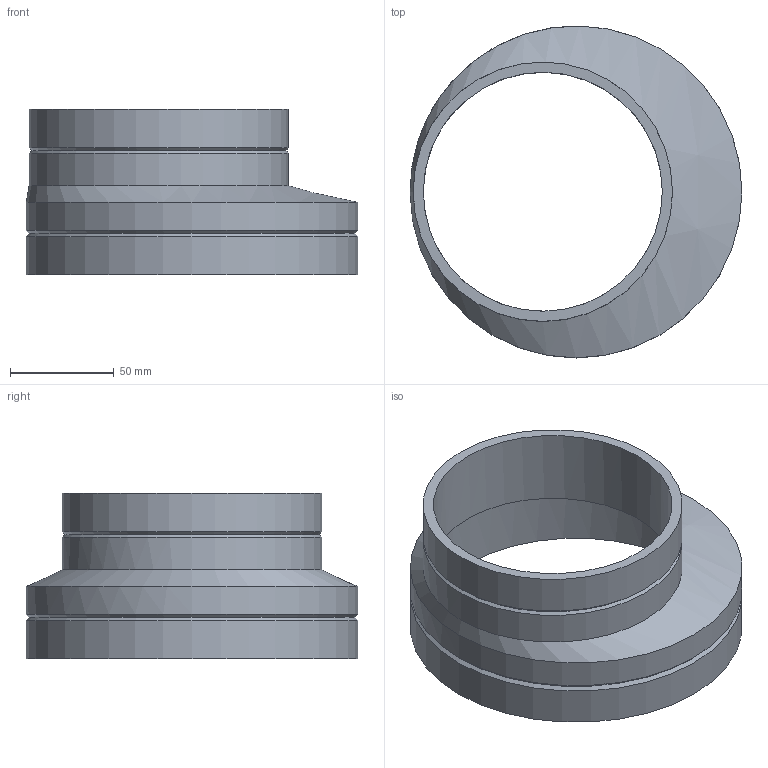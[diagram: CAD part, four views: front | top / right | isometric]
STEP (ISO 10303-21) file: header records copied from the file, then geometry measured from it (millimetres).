
FILE_DESCRIPTION(/* description */ (''),/* implementation_level */ '2;1');
FILE_NAME(/* name */ 'Z:\Geberit\Export\NewStep\369588.stp',/* time_stamp */ '2014-04-02T08:03:01+02:00',/* author */ ('nelson'),/* organization */ (''),/* preprocessor_version */ 'ST-DEVELOPER v15.2',/* originating_system */ 'Autodesk Inventor 2014',/* authorisation */ '');
FILE_SCHEMA (('AUTOMOTIVE_DESIGN { 1 0 10303 214 3 1 1 }'));
Length unit declared in the file: millimetre
Products named in the file (1): 369588
Bounding box: 160 x 160 x 80 mm (x, y, z)
Volume: 190534.8 mm3; surface area: 84559.5 mm2
Topology: 1 solids, 1 shells, 14 faces, 34 edges, 22 vertices
Faces by surface type: cylinder 6, cone 4, bspline 2, plane 2
Full cylindrical faces by diameter (mm): 115.2 x1, 125 x2, 147.6 x1, 160 x2
Entity records: 397 total; most frequent: CARTESIAN_POINT 89, DIRECTION 62, ORIENTED_EDGE 40, AXIS2_PLACEMENT_3D 31, EDGE_LOOP 26, EDGE_CURVE 20, CIRCLE 18, VERTEX_POINT 18
